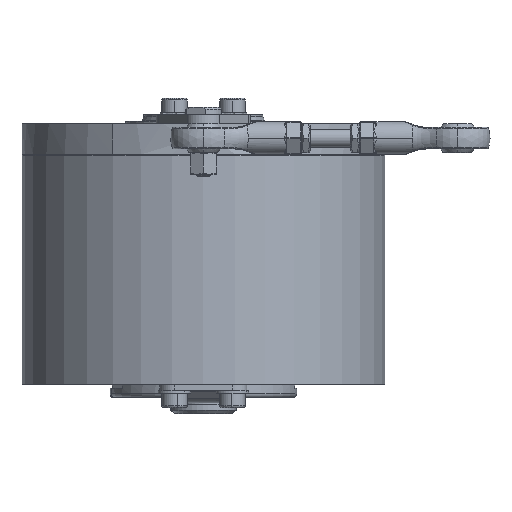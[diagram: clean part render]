
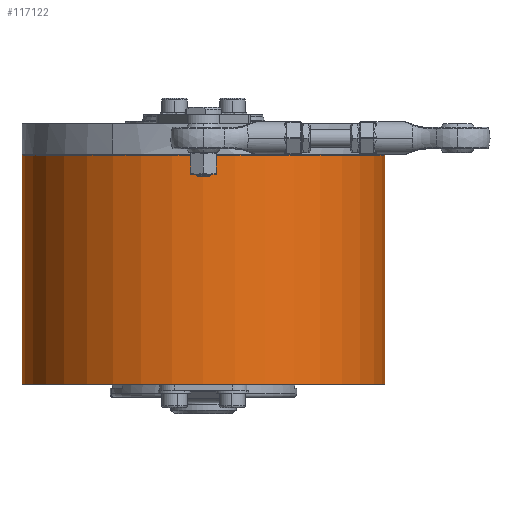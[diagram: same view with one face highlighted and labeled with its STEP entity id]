
A CAD part, front view. The second image highlights one B-rep face of the part: STEP entity #117122.
In plain terms, the highlighted cylindrical face has radius 50 mm (diameter 100 mm), a partial arc.
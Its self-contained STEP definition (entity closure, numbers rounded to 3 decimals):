
#4056 = CARTESIAN_POINT ( 'NONE',  ( 50., 0., -50. ) ) ;
#4285 = CARTESIAN_POINT ( 'NONE',  ( 0., 0., -0.2 ) ) ;
#7587 = EDGE_CURVE ( 'NONE', #103692, #61828, #126311, .T. ) ;
#8107 = EDGE_CURVE ( 'NONE', #103692, #78843, #102948, .T. ) ;
#12994 = ORIENTED_EDGE ( 'NONE', *, *, #21602, .T. ) ;
#14101 = DIRECTION ( 'NONE',  ( -1., 0., 0. ) ) ;
#15310 = CARTESIAN_POINT ( 'NONE',  ( 0., 0., -63.3 ) ) ;
#20811 = ORIENTED_EDGE ( 'NONE', *, *, #52590, .T. ) ;
#21602 = EDGE_CURVE ( 'NONE', #61828, #48787, #38342, .T. ) ;
#25248 = DIRECTION ( 'NONE',  ( 1., 0., 0. ) ) ;
#27447 = VECTOR ( 'NONE', #72916, 1000. ) ;
#30775 = ORIENTED_EDGE ( 'NONE', *, *, #8107, .F. ) ;
#35267 = VECTOR ( 'NONE', #118495, 1000. ) ;
#37322 = CYLINDRICAL_SURFACE ( 'NONE', #77200, 50. ) ;
#38342 = LINE ( 'NONE', #89326, #35267 ) ;
#42598 = AXIS2_PLACEMENT_3D ( 'NONE', #15310, #84263, #25248 ) ;
#43750 = DIRECTION ( 'NONE',  ( -1., 0., 0. ) ) ;
#44373 = CARTESIAN_POINT ( 'NONE',  ( 50., 0., -63.3 ) ) ;
#44542 = EDGE_LOOP ( 'NONE', ( #30775, #61610, #12994, #20811 ) ) ;
#48787 = VERTEX_POINT ( 'NONE', #95495 ) ;
#52590 = EDGE_CURVE ( 'NONE', #48787, #78843, #69471, .T. ) ;
#61610 = ORIENTED_EDGE ( 'NONE', *, *, #7587, .T. ) ;
#61828 = VERTEX_POINT ( 'NONE', #73139 ) ;
#65198 = CARTESIAN_POINT ( 'NONE',  ( 50., 0., -0.2 ) ) ;
#69471 = CIRCLE ( 'NONE', #42598, 50. ) ;
#72803 = FACE_OUTER_BOUND ( 'NONE', #44542, .T. ) ;
#72916 = DIRECTION ( 'NONE',  ( 0., 0., -1. ) ) ;
#73139 = CARTESIAN_POINT ( 'NONE',  ( -50., 0., -0.2 ) ) ;
#73157 = DIRECTION ( 'NONE',  ( 0., 0., -1. ) ) ;
#77200 = AXIS2_PLACEMENT_3D ( 'NONE', #102356, #122040, #43750 ) ;
#78843 = VERTEX_POINT ( 'NONE', #44373 ) ;
#84263 = DIRECTION ( 'NONE',  ( 0., 0., 1. ) ) ;
#89326 = CARTESIAN_POINT ( 'NONE',  ( -50., 0., -50. ) ) ;
#95495 = CARTESIAN_POINT ( 'NONE',  ( -50., 0., -63.3 ) ) ;
#102051 = AXIS2_PLACEMENT_3D ( 'NONE', #4285, #73157, #14101 ) ;
#102356 = CARTESIAN_POINT ( 'NONE',  ( 0., 0., -50. ) ) ;
#102948 = LINE ( 'NONE', #4056, #27447 ) ;
#103692 = VERTEX_POINT ( 'NONE', #65198 ) ;
#117122 = ADVANCED_FACE ( 'NONE', ( #72803 ), #37322, .T. ) ;
#118495 = DIRECTION ( 'NONE',  ( 0., 0., -1. ) ) ;
#122040 = DIRECTION ( 'NONE',  ( 0., 0., -1. ) ) ;
#126311 = CIRCLE ( 'NONE', #102051, 50. ) ;
